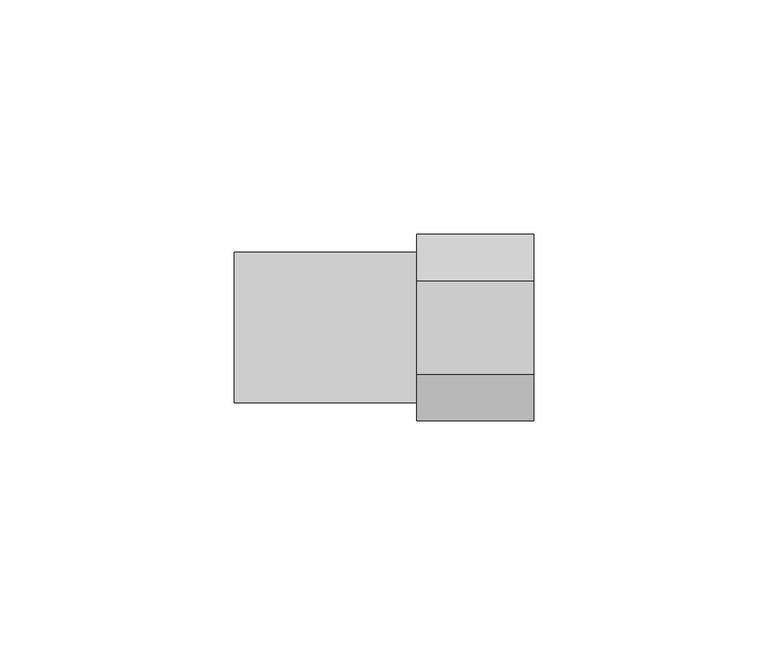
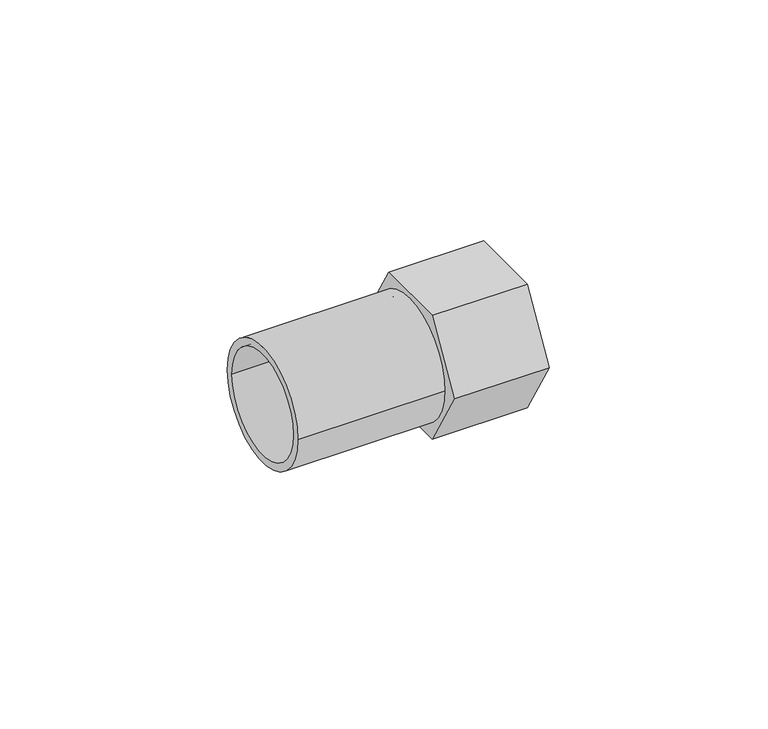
"""IFC4 building model written with IfcOpenShell, lengths in millimetres: pipe fitting geometry, VALTEC_VTi.907.I_Вставка с внутренней резьбой_Нержавеющая сталь : VTi.907.I."""

from ifc_helpers import new_model, si_unit, point, frame, origin, origin_2d, place, context, project, spatial, polyline, circle_curve, trimmed, segment, composite_curve, outline, extrude, source, transform, mapped, element, save


def pipe_fitting_8037c3cd(model_context):
    return source(origin(), model_context, "Body", "SweptSolid", [
        extrude(outline(polyline([(-19.9185843, 0.0), (-9.9592921, 17.25), (9.9592921, 17.25), (19.9185843, 0.0), (9.9592921, -17.25), (-9.9592921, -17.25), (-19.9185843, 0.0)]), holes=[composite_curve([segment(trimmed(circle_curve(origin_2d(), 10.0), [point((10.0, 0.0))], [point((-10.0, 0.0))], True, "CARTESIAN"), True, "CONTINUOUS"), segment(trimmed(circle_curve(origin_2d(), 10.0), [point((-10.0, 0.0))], [point((10.0, 0.0))], True, "CARTESIAN"), True, "CONTINUOUS")], self_intersect=False)]), frame((-12.5, 0.0, 0.0), z_axis=(1.0, 0.0, 0.0), x_axis=(0.0, 1.0, 0.0)), (0.0, 0.0, 1.0), 25.0),
        extrude(outline(composite_curve([segment(trimmed(circle_curve(origin_2d(), 16.1), [point((-16.1, 0.0))], [point((16.1, 0.0))], False, "CARTESIAN"), True, "CONTINUOUS"), segment(trimmed(circle_curve(origin_2d(), 16.1), [point((16.1, 0.0))], [point((-16.1, 0.0))], False, "CARTESIAN"), True, "CONTINUOUS")], self_intersect=False), holes=[composite_curve([segment(trimmed(circle_curve(origin_2d(), 14.0), [point((-14.0, 0.0))], [point((14.0, 0.0))], True, "CARTESIAN"), True, "CONTINUOUS"), segment(trimmed(circle_curve(origin_2d(), 14.0), [point((14.0, 0.0))], [point((-14.0, 0.0))], True, "CARTESIAN"), True, "CONTINUOUS")], self_intersect=False)]), frame((-51.5, 0.0, 0.0), z_axis=(1.0, 0.0, 0.0), x_axis=(0.0, 1.0, 0.0)), (0.0, 0.0, 1.0), 39.0),
    ])


if __name__ == "__main__":
    model = new_model("IFC4")
    model_context = context("Model", 3, world=origin())
    ifc_project = project(units=[si_unit("LENGTHUNIT", "METRE", prefix="MILLI")], contexts=[model_context])
    site = spatial("IfcSite", under=ifc_project)
    building = spatial("IfcBuilding", under=site)
    placement = place(None, origin())
    pipe_fitting_shape = pipe_fitting_8037c3cd(model_context)
    element("IfcPipeFitting", 1, ObjectType="VALTEC_VTi.907.I_Вставка с внутренней резьбой_Нержавеющая сталь : VTi.907.I", at=placement, inside=building, context=model_context, shape_type="MappedRepresentation", body=[
        mapped(pipe_fitting_shape, transform((0.0, 0.0, 0.0), x_axis=(1.0, 0.0, 0.0), y_axis=(0.0, 1.0, 0.0), z_axis=(0.0, 0.0, 1.0))),
    ])
    save(model, "model.ifc")
